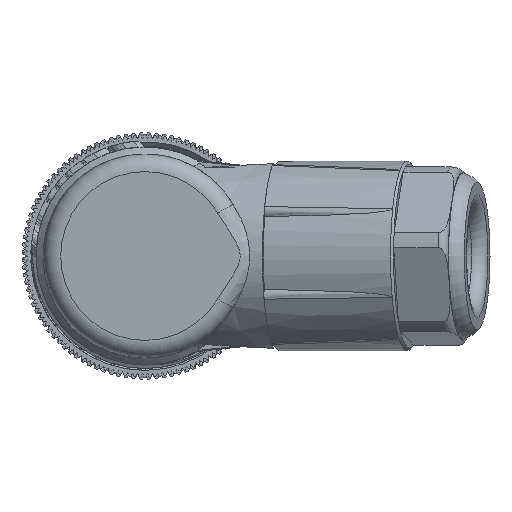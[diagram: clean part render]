
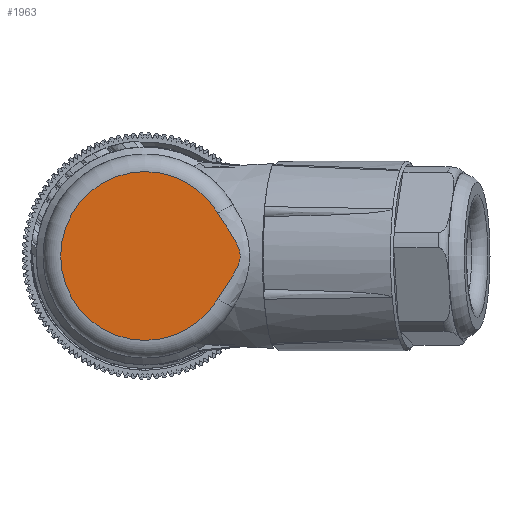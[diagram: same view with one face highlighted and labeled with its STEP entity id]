
A CAD part, front view. The second image highlights one B-rep face of the part: STEP entity #1963.
In plain terms, the highlighted planar face has unit normal (0, -1, 0).
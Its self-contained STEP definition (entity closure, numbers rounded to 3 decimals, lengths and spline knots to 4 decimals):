
#1963=ADVANCED_FACE('',(#4213),#3054,.T.);
#3054=PLANE('',#26822);
#4213=FACE_OUTER_BOUND('',#5664,.T.);
#5664=EDGE_LOOP('',(#13103,#13104));
#6396=B_SPLINE_CURVE_WITH_KNOTS('',3,(#43324,#43325,#43326,#43327,#43328,
#43329,#43330,#43331,#43332,#43333,#43334,#43335,#43336,#43337,#43338,#43339),
 .UNSPECIFIED.,.F.,.F.,(4,2,2,2,2,2,2,4),(0.,0.2378,0.3829,
0.4711,0.5611,0.7318,0.928,
1.),.UNSPECIFIED.);
#7505=CIRCLE('',#26821,4.8);
#13103=ORIENTED_EDGE('',*,*,#20046,.T.);
#13104=ORIENTED_EDGE('',*,*,#20047,.T.);
#16745=VERTEX_POINT('',#43340);
#16746=VERTEX_POINT('',#43341);
#20046=EDGE_CURVE('',#16745,#16746,#6396,.T.);
#20047=EDGE_CURVE('',#16746,#16745,#7505,.T.);
#26821=AXIS2_PLACEMENT_3D('',#43342,#32752,#32753);
#26822=AXIS2_PLACEMENT_3D('',#43343,#32754,#32755);
#32752=DIRECTION('',(0.,-1.,0.));
#32753=DIRECTION('',(0.,0.,-1.));
#32754=DIRECTION('',(0.,-1.,0.));
#32755=DIRECTION('',(0.,0.,1.));
#43324=CARTESIAN_POINT('',(4.1399,-37.,-2.4293));
#43325=CARTESIAN_POINT('',(4.3631,-37.,-2.0489));
#43326=CARTESIAN_POINT('',(4.621,-37.,-1.6899));
#43327=CARTESIAN_POINT('',(5.0075,-37.,-1.0947));
#43328=CARTESIAN_POINT('',(5.1501,-37.,-0.8646));
#43329=CARTESIAN_POINT('',(5.3239,-37.,-0.4697));
#43330=CARTESIAN_POINT('',(5.3766,-37.,-0.312));
#43331=CARTESIAN_POINT('',(5.4179,-37.,0.0131));
#43332=CARTESIAN_POINT('',(5.4018,-37.,0.1836));
#43333=CARTESIAN_POINT('',(5.2755,-37.,0.6443));
#43334=CARTESIAN_POINT('',(5.1133,-37.,0.9211));
#43335=CARTESIAN_POINT('',(4.7546,-37.,1.4921));
#43336=CARTESIAN_POINT('',(4.5453,-37.,1.7873));
#43337=CARTESIAN_POINT('',(4.2773,-37.,2.2024));
#43338=CARTESIAN_POINT('',(4.207,-37.,2.3149));
#43339=CARTESIAN_POINT('',(4.1399,-37.,2.4293));
#43340=CARTESIAN_POINT('',(4.1399,-37.,-2.4293));
#43341=CARTESIAN_POINT('',(4.1399,-37.,2.4293));
#43342=CARTESIAN_POINT('',(0.,-37.,0.));
#43343=CARTESIAN_POINT('',(5.8,-37.,0.));
